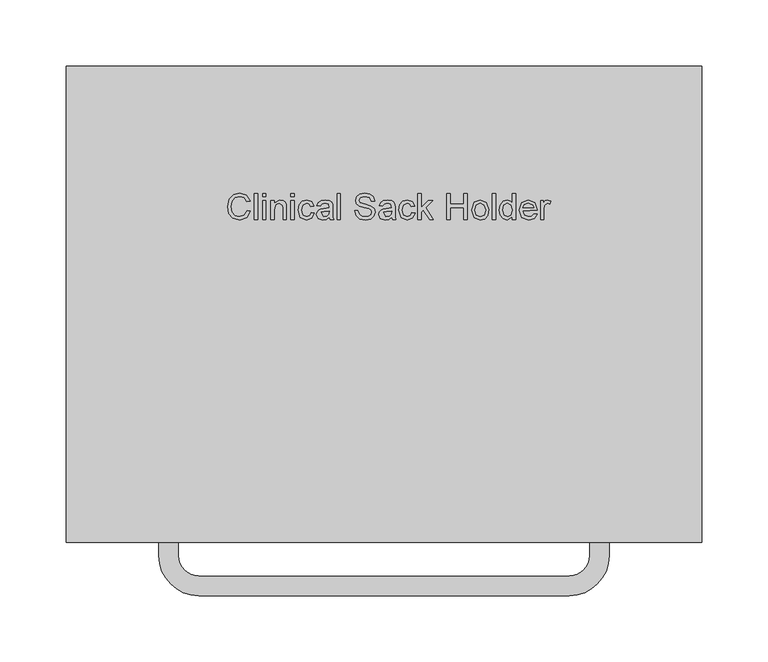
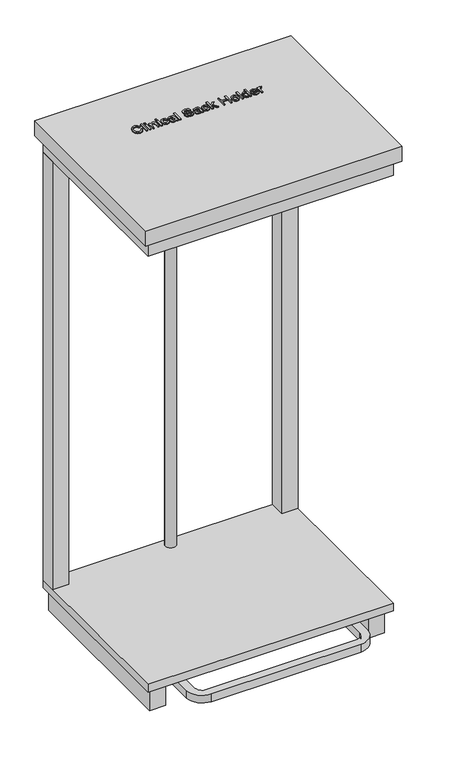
"""IFC4 building model written with IfcOpenShell, lengths in millimetres: furniture geometry, BIMHealth-Sack_Holder_Clinical-LOD2A-v1 : BIMHealth-Sack_Holder_Clinical-LOD2A-v1."""

import ifcopenshell
import ifcopenshell.guid

model = None  # the IFC model being written
_history = None  # IfcOwnerHistory: only IFC2X3 demands one
_inside = {}  # id of a spatial element -> (the spatial element, [elements in it])
_under = {}  # id of a project, library or spatial element -> (it, [spatial elements below it])
_declared = {}  # id of a project -> (the project, [libraries it declares])
_typed = {}  # id of a type object -> (the type object, [elements of that type])
_made_of = {}  # id of a material, layer set ... -> (it, [elements and type objects made of it])


def new_model(schema):
    """Start an empty IFC model of exactly this schema.

    Asked for "IFC4X3", IfcOpenShell would pick the latest addendum, in which some entities
    have other attributes; the version numbers below select the first issue.
    IFC2X3 requires an IfcOwnerHistory on every rooted entity: one is made here for all.
    """
    global model, _history
    if schema == "IFC4X3":
        model = ifcopenshell.file(schema_version=(4, 3, 0, 0))
    else:
        model = ifcopenshell.file(schema=schema)
    _inside.clear()
    _under.clear()
    _declared.clear()
    _typed.clear()
    _made_of.clear()
    _history = None
    if model.schema == "IFC2X3":
        org = make("IfcOrganization", Name="unknown")
        user = make(
            "IfcPersonAndOrganization",
            ThePerson=make("IfcPerson", FamilyName="unknown"),
            TheOrganization=org,
        )
        app = make(
            "IfcApplication",
            ApplicationDeveloper=org,
            Version="unknown",
            ApplicationFullName="unknown",
            ApplicationIdentifier="unknown",
        )
        _history = make(
            "IfcOwnerHistory",
            OwningUser=user,
            OwningApplication=app,
            ChangeAction="ADDED",
            CreationDate=0,
        )
    return model


def make(cls, **values):
    """One entity of the class cls with the attributes given. An attribute that is None is left unset."""
    return model.create_entity(
        cls, **{name: value for name, value in values.items() if value is not None}
    )


def rooted(cls, **values):
    """An entity with a GlobalId (a new one), such as an element, a storey or a relation."""
    return make(cls, GlobalId=ifcopenshell.guid.new(), OwnerHistory=_history, **values)


def si_unit(unit_type, name, prefix=None):
    """IfcSIUnit, for example si_unit("LENGTHUNIT", "METRE", prefix="MILLI")."""
    return make("IfcSIUnit", UnitType=unit_type, Prefix=prefix, Name=name)


def assignment(units):
    """IfcUnitAssignment: the units of a project."""
    return None if units is None else make("IfcUnitAssignment", Units=units)


def point(xyz):
    """IfcCartesianPoint."""
    return None if xyz is None else make("IfcCartesianPoint", Coordinates=xyz)


def direction(xyz):
    """IfcDirection."""
    return None if xyz is None else make("IfcDirection", DirectionRatios=xyz)


def frame(location, z_axis=None, x_axis=None):
    """IfcAxis2Placement3D, a coordinate frame: its origin and axes. An axis left out is left unset."""
    return make(
        "IfcAxis2Placement3D",
        Location=point(location),
        Axis=direction(z_axis),
        RefDirection=direction(x_axis),
    )


def frame_2d(location, x_axis=None):
    """IfcAxis2Placement2D, a coordinate frame in the plane: its origin and x axis."""
    return make(
        "IfcAxis2Placement2D", Location=point(location), RefDirection=direction(x_axis)
    )


def origin():
    """The frame at (0, 0, 0) with its axes left unset."""
    return frame((0.0, 0.0, 0.0))


def origin_with_axes():
    """The frame at (0, 0, 0) with the z axis (0, 0, 1) and the x axis (1, 0, 0) written out."""
    return frame((0.0, 0.0, 0.0), z_axis=(0.0, 0.0, 1.0), x_axis=(1.0, 0.0, 0.0))


def place(relative_to, where):
    """IfcLocalPlacement: puts the frame where relative to a parent placement (None: the world)."""
    return make(
        "IfcLocalPlacement", PlacementRelTo=relative_to, RelativePlacement=where
    )


def context(
    kind, dimensions, precision=None, world=None, true_north=None, identifier=None
):
    """IfcGeometricRepresentationContext, for example the 3D "Model" context."""
    return make(
        "IfcGeometricRepresentationContext",
        ContextIdentifier=identifier,
        ContextType=kind,
        CoordinateSpaceDimension=dimensions,
        Precision=precision,
        WorldCoordinateSystem=world,
        TrueNorth=true_north,
    )


def project(units=None, contexts=None):
    """IfcProject with its units and contexts."""
    return rooted(
        "IfcProject",
        Name="project",
        RepresentationContexts=contexts,
        UnitsInContext=assignment(units),
    )


def spatial(cls, under=None, at=None, **own):
    """A site, building, storey or space (cls), placed at a placement, below another one or the project."""
    s = rooted(cls, ObjectPlacement=at, **own)
    if under is not None:
        _under.setdefault(under.id(), (under, []))[1].append(s)
    return s


def polyline(points):
    """IfcPolyline through the points."""
    return make("IfcPolyline", Points=[point(p) for p in points])


def circle_curve(where, radius):
    """IfcCircle in the frame where."""
    return make("IfcCircle", Position=where, Radius=radius)


def trimmed(basis, trim1, trim2, sense, master):
    """IfcTrimmedCurve: the piece of a basis curve between two trims."""
    return make(
        "IfcTrimmedCurve",
        BasisCurve=basis,
        Trim1=trim1,
        Trim2=trim2,
        SenseAgreement=sense,
        MasterRepresentation=master,
    )


def segment(curve, same_sense, transition):
    """IfcCompositeCurveSegment."""
    return make(
        "IfcCompositeCurveSegment",
        Transition=transition,
        SameSense=same_sense,
        ParentCurve=curve,
    )


def composite_curve(segments, self_intersect=None):
    """IfcCompositeCurve: segments joined end to end."""
    return make("IfcCompositeCurve", Segments=segments, SelfIntersect=self_intersect)


def outline(outer, holes=None, kind="AREA"):
    """IfcArbitraryClosedProfileDef: a profile drawn as a closed curve; with holes, ...WithVoids."""
    if holes is None:
        return make("IfcArbitraryClosedProfileDef", ProfileType=kind, OuterCurve=outer)
    return make(
        "IfcArbitraryProfileDefWithVoids",
        ProfileType=kind,
        OuterCurve=outer,
        InnerCurves=holes,
    )


def extrude(swept, where, along, depth):
    """IfcExtrudedAreaSolid: the profile swept, set in the frame where, extruded along a direction by depth."""
    return make(
        "IfcExtrudedAreaSolid",
        SweptArea=swept,
        Position=where,
        ExtrudedDirection=direction(along),
        Depth=depth,
    )


def shape(context_of_items, identifier, shape_type, items):
    """IfcShapeRepresentation: the items that make up one representation, for example the "Body"."""
    return make(
        "IfcShapeRepresentation",
        ContextOfItems=context_of_items,
        RepresentationIdentifier=identifier,
        RepresentationType=shape_type,
        Items=items,
    )


def source(mapping_origin, context_of_items, identifier, shape_type, items):
    """IfcRepresentationMap: a shape defined once, which mapped items show again and again."""
    return make(
        "IfcRepresentationMap",
        MappingOrigin=mapping_origin,
        MappedRepresentation=shape(context_of_items, identifier, shape_type, items),
    )


def transform(
    local_origin,
    x_axis=None,
    y_axis=None,
    z_axis=None,
    scale=None,
    scale2=None,
    scale3=None,
    uniform=True,
):
    """IfcCartesianTransformationOperator3D, or its non-uniform kind. x_axis, y_axis, z_axis: its Axis1, 2, 3."""
    if uniform:
        return make(
            "IfcCartesianTransformationOperator3D",
            Axis1=direction(x_axis),
            Axis2=direction(y_axis),
            LocalOrigin=point(local_origin),
            Scale=scale,
            Axis3=direction(z_axis),
        )
    return make(
        "IfcCartesianTransformationOperator3DnonUniform",
        Axis1=direction(x_axis),
        Axis2=direction(y_axis),
        LocalOrigin=point(local_origin),
        Scale=scale,
        Axis3=direction(z_axis),
        Scale2=scale2,
        Scale3=scale3,
    )


def mapped(mapping_source, mapping_target):
    """IfcMappedItem: shows the shape of a source again, moved by a transform."""
    return make(
        "IfcMappedItem", MappingSource=mapping_source, MappingTarget=mapping_target
    )


def made_of(thing, what):
    """Note that an element or type object is made of a material, layer set ...; save() writes the relation."""
    if what is not None:
        _made_of.setdefault(what.id(), (what, []))[1].append(thing)
    return thing


def element(
    cls,
    number,
    at=None,
    inside=None,
    cuts=None,
    type_object=None,
    material=None,
    context=None,
    identifier="Body",
    shape_type=None,
    held_by="IfcProductDefinitionShape",
    body=None,
    shapes=None,
    **own,
):
    """One element of the class cls, such as IfcWall. Its Tag is "e" and its number.

    at: its placement. inside: the storey or other place that contains it. cuts: it is an
    opening in that element (IfcRelVoidsElement). A single representation is given by context,
    identifier, shape_type and body (its items); several are given by shapes. held_by: the class
    of the entity that holds the representations. save() writes the other relations.
    """
    e = rooted(cls, Tag="e%d" % number, ObjectPlacement=at, **own)
    if body is not None:
        shapes = [shape(context, identifier, shape_type, body)]
    if shapes is not None:
        e.Representation = make(held_by, Representations=shapes)
    if inside is not None:
        _inside.setdefault(inside.id(), (inside, []))[1].append(e)
    if cuts is not None:
        rooted(
            "IfcRelVoidsElement", RelatingBuildingElement=cuts, RelatedOpeningElement=e
        )
    if type_object is not None:
        _typed.setdefault(type_object.id(), (type_object, []))[1].append(e)
    return made_of(e, material)


def aggregate(whole, parts):
    """IfcRelAggregates: a whole, such as a stair, and the parts it consists of."""
    return rooted("IfcRelAggregates", RelatingObject=whole, RelatedObjects=parts)


def save(model, path):
    """Write the relations noted so far, then the file.

    IfcRelAggregates (storeys below a building ...), IfcRelContainedInSpatialStructure (elements
    in a storey), IfcRelDefinesByType, IfcRelAssociatesMaterial and IfcRelDeclares: one each for
    every whole, place, type object, material and project.
    """
    for whole, parts in _under.values():
        aggregate(whole, parts)
    for where, things in _inside.values():
        rooted(
            "IfcRelContainedInSpatialStructure",
            RelatedElements=things,
            RelatingStructure=where,
        )
    for kind, things in _typed.values():
        rooted("IfcRelDefinesByType", RelatedObjects=things, RelatingType=kind)
    for what, things in _made_of.values():
        rooted("IfcRelAssociatesMaterial", RelatedObjects=things, RelatingMaterial=what)
    for by, libraries in _declared.values():
        rooted("IfcRelDeclares", RelatingContext=by, RelatedDefinitions=libraries)
    model.write(path)


def furniture_610823a6(model_context):
    return source(origin(), model_context, "Body", "SweptSolid", [
        extrude(outline(polyline([(116.6607141, -88.9720816), (119.1222526, -89.606697), (116.2039833, -94.5706393), (111.0501372, -96.279774), (105.927541, -94.9865047), (102.9227333, -91.2413124), (101.8914833, -85.9768893), (103.0573487, -80.6259278), (106.3722526, -77.1571778), (111.1030218, -75.9720816), (116.0333103, -77.5057355), (118.8145603, -81.8230432), (116.3530218, -82.4095816), (114.333791, -79.3831393), (111.006868, -78.4336201), (107.1559064, -79.4865047), (104.9804256, -82.3134278), (104.3530218, -85.9720816), (105.0958103, -90.2124663), (107.4083103, -92.9216009), (110.8049449, -93.8182355), (114.5717718, -92.5970816), (116.6607141, -88.9720816)])), frame((0.0, 0.0, 970.0), z_axis=(0.0, 0.0, 1.0), x_axis=(1.0, 0.0, 0.0)), (0.0, 0.0, 1.0), 2.0),
        extrude(outline(polyline([(122.1991756, -95.9720816), (122.1991756, -76.279774), (124.6607141, -76.279774), (124.6607141, -95.9720816), (122.1991756, -95.9720816)])), frame((0.0, 0.0, 970.0), z_axis=(0.0, 0.0, 1.0), x_axis=(1.0, 0.0, 0.0)), (0.0, 0.0, 1.0), 2.0),
        extrude(outline(polyline([(128.3530218, -78.7413124), (128.3530218, -76.279774), (130.8145603, -76.279774), (130.8145603, -78.7413124), (128.3530218, -78.7413124)])), frame((0.0, 0.0, 970.0), z_axis=(0.0, 0.0, 1.0), x_axis=(1.0, 0.0, 0.0)), (0.0, 0.0, 1.0), 2.0),
        extrude(outline(polyline([(128.3530218, -95.9720816), (128.3530218, -81.5105432), (130.8145603, -81.5105432), (130.8145603, -95.9720816), (128.3530218, -95.9720816)])), frame((0.0, 0.0, 970.0), z_axis=(0.0, 0.0, 1.0), x_axis=(1.0, 0.0, 0.0)), (0.0, 0.0, 1.0), 2.0),
        extrude(outline(polyline([(134.506868, -95.9720816), (134.506868, -81.5105432), (136.9684064, -81.5105432), (136.9684064, -83.529774), (141.4203295, -81.2028509), (143.7448487, -81.6716009), (145.3313872, -82.9023701), (146.069368, -84.7124663), (146.1991756, -87.092274), (146.1991756, -95.9720816), (143.7376372, -95.9720816), (143.7376372, -87.4240047), (143.4539833, -85.2461201), (140.7616756, -83.6643893), (138.0910026, -84.6307355), (136.9684064, -88.2990047), (136.9684064, -95.9720816), (134.506868, -95.9720816)])), frame((0.0, 0.0, 970.0), z_axis=(0.0, 0.0, 1.0), x_axis=(1.0, 0.0, 0.0)), (0.0, 0.0, 1.0), 2.0),
        extrude(outline(polyline([(149.583791, -78.7413124), (149.583791, -76.279774), (152.0453295, -76.279774), (152.0453295, -78.7413124), (149.583791, -78.7413124)])), frame((0.0, 0.0, 970.0), z_axis=(0.0, 0.0, 1.0), x_axis=(1.0, 0.0, 0.0)), (0.0, 0.0, 1.0), 2.0),
        extrude(outline(polyline([(149.583791, -95.9720816), (149.583791, -81.5105432), (152.0453295, -81.5105432), (152.0453295, -95.9720816), (149.583791, -95.9720816)])), frame((0.0, 0.0, 970.0), z_axis=(0.0, 0.0, 1.0), x_axis=(1.0, 0.0, 0.0)), (0.0, 0.0, 1.0), 2.0),
        extrude(outline(polyline([(164.9684064, -90.7413124), (167.4299449, -91.0490047), (165.4539833, -94.8927547), (161.5501372, -96.279774), (156.8842718, -94.3446778), (155.1222526, -88.794197), (155.8746564, -84.7052547), (158.1679256, -82.0778509), (161.5164833, -81.2028509), (165.2592718, -82.404774), (167.1222526, -85.8182355), (164.6607141, -86.1259278), (163.5188872, -84.2821778), (161.5357141, -83.6643893), (158.6823487, -84.8807355), (157.583791, -88.7268893), (158.6583103, -92.6091009), (161.4684064, -93.8182355), (163.788118, -93.0634278), (164.9684064, -90.7413124)])), frame((0.0, 0.0, 970.0), z_axis=(0.0, 0.0, 1.0), x_axis=(1.0, 0.0, 0.0)), (0.0, 0.0, 1.0), 2.0),
        extrude(outline(polyline([(178.8145603, -94.1259278), (176.427541, -95.794197), (173.7905218, -96.279774), (170.2160026, -95.1115047), (168.9684064, -92.1259278), (169.4395603, -90.1788124), (170.677541, -88.7653509), (172.4010987, -87.9576586), (174.5309064, -87.5874663), (178.8001372, -86.7413124), (178.1366756, -84.3759278), (175.4155218, -83.6643893), (172.9251372, -84.137947), (171.7376372, -85.8182355), (169.2760987, -85.5105432), (170.3410026, -83.106697), (172.4852333, -81.6980432), (175.7328295, -81.2028509), (178.7160026, -81.6403509), (180.4010987, -82.7389086), (181.1559064, -84.4095816), (181.2760987, -86.5634278), (181.2760987, -89.6259278), (181.4010987, -93.9023701), (181.8914833, -95.9720816), (179.4299449, -95.9720816), (178.8145603, -94.1259278)]), holes=[polyline([(178.8073487, -89.5514086), (174.8434064, -89.9576586), (172.725618, -90.356697), (174.3145603, -93.8182355), (176.8049449, -93.2292932), (178.4107141, -91.8038124), (178.8073487, -89.5514086)])]), frame((0.0, 0.0, 970.0), z_axis=(0.0, 0.0, 1.0), x_axis=(1.0, 0.0, 0.0)), (0.0, 0.0, 1.0), 2.0),
        extrude(outline(polyline([(184.6607141, -95.9720816), (184.6607141, -76.279774), (187.1222526, -76.279774), (187.1222526, -95.9720816), (184.6607141, -95.9720816)])), frame((0.0, 0.0, 970.0), z_axis=(0.0, 0.0, 1.0), x_axis=(1.0, 0.0, 0.0)), (0.0, 0.0, 1.0), 2.0),
        extrude(outline(polyline([(197.8914833, -89.2028509), (200.3530218, -89.2028509), (201.146291, -91.6667932), (203.083791, -93.2244855), (206.0357141, -93.8182355), (208.6078295, -93.3687163), (210.2688872, -92.1331393), (210.8145603, -90.481697), (210.4059064, -88.9456393), (208.7328295, -87.8278509), (205.1486949, -86.887947), (201.2905218, -85.6740047), (199.1967718, -83.842274), (198.506868, -81.3951586), (199.3602333, -78.6091009), (201.8530218, -76.6427547), (205.5020603, -75.9720816), (209.396291, -76.6740047), (211.9924449, -78.7365047), (212.9684064, -81.8182355), (210.506868, -81.8182355), (209.1126372, -79.2893893), (205.5982141, -78.4336201), (202.0741756, -79.279774), (200.9684064, -81.3230432), (201.7520603, -83.029774), (205.771291, -84.404774), (210.1270603, -85.6403509), (212.5092718, -87.6355432), (213.2760987, -90.419197), (212.3938872, -93.3639086), (209.8554256, -95.512947), (206.131868, -96.279774), (201.7352333, -95.4528509), (198.9539833, -92.9624663), (197.8914833, -89.2028509)])), frame((0.0, 0.0, 970.0), z_axis=(0.0, 0.0, 1.0), x_axis=(1.0, 0.0, 0.0)), (0.0, 0.0, 1.0), 2.0),
        extrude(outline(polyline([(225.8914833, -94.1259278), (223.5044641, -95.794197), (220.8674449, -96.279774), (217.2929256, -95.1115047), (216.0453295, -92.1259278), (216.5164833, -90.1788124), (217.7544641, -88.7653509), (219.4780218, -87.9576586), (221.6078295, -87.5874663), (225.8770603, -86.7413124), (225.2135987, -84.3759278), (222.4924449, -83.6643893), (220.0020603, -84.137947), (218.8145603, -85.8182355), (216.3530218, -85.5105432), (217.4179256, -83.106697), (219.5621564, -81.6980432), (222.8097526, -81.2028509), (225.7929256, -81.6403509), (227.4780218, -82.7389086), (228.2328295, -84.4095816), (228.3530218, -86.5634278), (228.3530218, -89.6259278), (228.4780218, -93.9023701), (228.9684064, -95.9720816), (226.506868, -95.9720816), (225.8914833, -94.1259278)]), holes=[polyline([(225.8842718, -89.5514086), (221.9203295, -89.9576586), (219.802541, -90.356697), (221.3914833, -93.8182355), (223.881868, -93.2292932), (225.4876372, -91.8038124), (225.8842718, -89.5514086)])]), frame((0.0, 0.0, 970.0), z_axis=(0.0, 0.0, 1.0), x_axis=(1.0, 0.0, 0.0)), (0.0, 0.0, 1.0), 2.0),
        extrude(outline(polyline([(240.9684064, -90.7413124), (243.4299449, -91.0490047), (241.4539833, -94.8927547), (237.5501372, -96.279774), (232.8842718, -94.3446778), (231.1222526, -88.794197), (231.8746564, -84.7052547), (234.1679256, -82.0778509), (237.5164833, -81.2028509), (241.2592718, -82.404774), (243.1222526, -85.8182355), (240.6607141, -86.1259278), (239.5188872, -84.2821778), (237.5357141, -83.6643893), (234.6823487, -84.8807355), (233.583791, -88.7268893), (234.6583103, -92.6091009), (237.4684064, -93.8182355), (239.788118, -93.0634278), (240.9684064, -90.7413124)])), frame((0.0, 0.0, 970.0), z_axis=(0.0, 0.0, 1.0), x_axis=(1.0, 0.0, 0.0)), (0.0, 0.0, 1.0), 2.0),
        extrude(outline(polyline([(245.583791, -95.9720816), (245.583791, -76.279774), (248.0453295, -76.279774), (248.0453295, -86.8615047), (253.5645603, -81.5105432), (256.9684064, -81.5105432), (251.3770603, -86.9288124), (257.2760987, -95.9720816), (254.4010987, -95.9720816), (249.6126372, -88.6403509), (248.0453295, -90.1643893), (248.0453295, -95.9720816), (245.583791, -95.9720816)])), frame((0.0, 0.0, 970.0), z_axis=(0.0, 0.0, 1.0), x_axis=(1.0, 0.0, 0.0)), (0.0, 0.0, 1.0), 2.0),
        extrude(outline(polyline([(267.4299449, -95.9720816), (267.4299449, -76.279774), (269.8914833, -76.279774), (269.8914833, -84.279774), (280.3530218, -84.279774), (280.3530218, -76.279774), (282.8145603, -76.279774), (282.8145603, -95.9720816), (280.3530218, -95.9720816), (280.3530218, -86.7413124), (269.8914833, -86.7413124), (269.8914833, -95.9720816), (267.4299449, -95.9720816)])), frame((0.0, 0.0, 970.0), z_axis=(0.0, 0.0, 1.0), x_axis=(1.0, 0.0, 0.0)), (0.0, 0.0, 1.0), 2.0),
        extrude(outline(polyline([(286.1991756, -88.7413124), (288.3289833, -82.8038124), (292.6655218, -81.2028509), (297.3169641, -83.1523701), (299.1222526, -88.5393893), (298.3241756, -92.919197), (295.9996564, -95.3975624), (292.6655218, -96.279774), (287.9852333, -94.3374663), (286.1991756, -88.7413124)]), holes=[polyline([(288.6607141, -88.7365047), (289.8001372, -92.5514086), (292.6655218, -93.8182355), (295.521291, -92.544197), (296.6607141, -88.6595816), (295.5140795, -84.9312163), (292.6655218, -83.6643893), (289.8001372, -84.9264086), (288.6607141, -88.7365047)])]), frame((0.0, 0.0, 970.0), z_axis=(0.0, 0.0, 1.0), x_axis=(1.0, 0.0, 0.0)), (0.0, 0.0, 1.0), 2.0),
        extrude(outline(polyline([(301.8914833, -95.9720816), (301.8914833, -76.279774), (304.3530218, -76.279774), (304.3530218, -95.9720816), (301.8914833, -95.9720816)])), frame((0.0, 0.0, 970.0), z_axis=(0.0, 0.0, 1.0), x_axis=(1.0, 0.0, 0.0)), (0.0, 0.0, 1.0), 2.0),
        extrude(outline(polyline([(316.9684064, -95.9720816), (316.9684064, -93.6499663), (313.0885987, -96.279774), (310.0405218, -95.3278509), (307.8866756, -92.6716009), (307.1222526, -88.7557355), (307.8265795, -84.8374663), (309.9371564, -82.1403509), (313.0789833, -81.2028509), (315.3482141, -81.873524), (316.9684064, -83.6163124), (316.9684064, -76.279774), (319.4299449, -76.279774), (319.4299449, -95.9720816), (316.9684064, -95.9720816)]), holes=[polyline([(309.583791, -88.7461201), (310.694368, -92.5562163), (313.3145603, -93.8182355), (315.9035026, -92.6139086), (316.9684064, -88.9336201), (315.8842718, -84.9384278), (313.2135987, -83.6643893), (310.6222526, -84.887947), (309.583791, -88.7461201)])]), frame((0.0, 0.0, 970.0), z_axis=(0.0, 0.0, 1.0), x_axis=(1.0, 0.0, 0.0)), (0.0, 0.0, 1.0), 2.0),
        extrude(outline(polyline([(333.2472526, -91.6643893), (335.6607141, -91.9720816), (333.4035026, -95.1499663), (329.1991756, -96.279774), (324.0885987, -94.3302547), (322.1991756, -88.8615047), (324.1078295, -83.2124663), (329.0597526, -81.2028509), (333.8698487, -83.2076586), (335.7376372, -88.8470816), (324.6607141, -89.5105432), (326.0765795, -92.7076586), (329.2472526, -93.8182355), (331.6607141, -93.3038124), (333.2472526, -91.6643893)]), holes=[polyline([(324.6607141, -87.0490047), (333.2760987, -87.0490047), (332.2905218, -84.8182355), (329.0501372, -83.6643893), (326.0188872, -84.5850624), (324.6607141, -87.0490047)])]), frame((0.0, 0.0, 970.0), z_axis=(0.0, 0.0, 1.0), x_axis=(1.0, 0.0, 0.0)), (0.0, 0.0, 1.0), 2.0),
        extrude(outline(polyline([(338.1991756, -95.9720816), (338.1991756, -81.5105432), (340.3530218, -81.5105432), (340.3530218, -83.6499663), (341.881868, -81.6788124), (343.4203295, -81.2028509), (345.8914833, -81.9624663), (345.069368, -84.169197), (343.3385987, -83.6643893), (341.0597526, -85.4961201), (340.6607141, -88.3711201), (340.6607141, -95.9720816), (338.1991756, -95.9720816)])), frame((0.0, 0.0, 970.0), z_axis=(0.0, 0.0, 1.0), x_axis=(1.0, 0.0, 0.0)), (0.0, 0.0, 1.0), 2.0),
        extrude(outline(polyline([(-20.0, -340.0), (-20.0, 20.0), (460.0, 20.0), (460.0, -340.0), (-20.0, -340.0)])), frame((0.0, 0.0, 940.0), z_axis=(0.0, 0.0, 1.0), x_axis=(1.0, 0.0, 0.0)), (0.0, 0.0, 1.0), 30.0),
        extrude(outline(composite_curve([segment(trimmed(circle_curve(frame_2d((220.0, -5.0)), 10.0), [point((210.0, -5.0))], [point((230.0, -5.0))], False, "CARTESIAN"), True, "CONTINUOUS"), segment(trimmed(circle_curve(frame_2d((220.0, -5.0)), 10.0), [point((230.0, -5.0))], [point((210.0, -5.0))], False, "CARTESIAN"), True, "CONTINUOUS")], self_intersect=False)), frame((0.0, 0.0, 62.5), z_axis=(0.0, 0.0, 1.0), x_axis=(1.0, 0.0, 0.0)), (0.0, 0.0, 1.0), 847.5),
        extrude(outline(polyline([(420.0, 10.0), (450.0, 10.0), (450.0, -20.0), (420.0, -20.0), (420.0, 10.0)])), frame((0.0, 0.0, 62.5), z_axis=(0.0, 0.0, 1.0), x_axis=(1.0, 0.0, 0.0)), (0.0, 0.0, 1.0), 847.5),
        extrude(outline(polyline([(20.0, 10.0), (20.0, -20.0), (-10.0, -20.0), (-10.0, 10.0), (20.0, 10.0)])), frame((0.0, 0.0, 62.5), z_axis=(0.0, 0.0, 1.0), x_axis=(1.0, 0.0, 0.0)), (0.0, 0.0, 1.0), 847.5),
        extrude(outline(polyline([(450.0, -330.0), (-10.0, -330.0), (-10.0, 10.0), (450.0, 10.0), (450.0, -330.0)])), frame((0.0, 0.0, 47.5), z_axis=(0.0, 0.0, 1.0), x_axis=(1.0, 0.0, 0.0)), (0.0, 0.0, 1.0), 15.0),
        extrude(outline(polyline([(450.0, -330.0), (-10.0, -330.0), (-10.0, 10.0), (450.0, 10.0), (450.0, -330.0)])), frame((0.0, 0.0, 910.0), z_axis=(0.0, 0.0, 1.0), x_axis=(1.0, 0.0, 0.0)), (0.0, 0.0, 1.0), 30.0),
        extrude(outline(polyline([(410.0, -20.0), (30.0, -20.0), (30.0, -317.779018), (0.0, -317.779018), (0.0, 10.0), (440.0, 10.0), (440.0, -317.779018), (410.0, -317.779018), (410.0, -20.0)])), origin_with_axes(), (0.0, 0.0, 1.0), 47.5),
        extrude(outline(composite_curve([segment(polyline([(360.0, -380.0), (80.0, -380.0)]), True, "CONTINUOUS"), segment(trimmed(circle_curve(frame_2d((80.0, -350.0)), 30.0), [point((80.0, -380.0))], [point((50.0, -350.0))], False, "CARTESIAN"), True, "CONTINUOUS"), segment(polyline([(50.0, -350.0), (50.0, -132.779018), (390.0, -132.779018), (390.0, -350.0)]), True, "CONTINUOUS"), segment(trimmed(circle_curve(frame_2d((360.0, -350.0)), 30.0), [point((390.0, -350.0))], [point((360.0, -380.0))], False, "CARTESIAN"), True, "CONTINUOUS")], self_intersect=False), holes=[composite_curve([segment(trimmed(circle_curve(frame_2d((80.0, -350.0)), 15.0), [point((65.0, -350.0))], [point((80.0, -365.0))], True, "CARTESIAN"), True, "CONTINUOUS"), segment(polyline([(80.0, -365.0), (360.0, -365.0)]), True, "CONTINUOUS"), segment(trimmed(circle_curve(frame_2d((360.0, -350.0)), 15.0), [point((360.0, -365.0))], [point((375.0, -350.0))], True, "CARTESIAN"), True, "CONTINUOUS"), segment(polyline([(375.0, -350.0), (375.0, -147.779018), (65.0, -147.779018), (65.0, -350.0)]), True, "CONTINUOUS")], self_intersect=False)]), frame((0.0, 0.0, 27.5), z_axis=(0.0, 0.0, 1.0), x_axis=(1.0, 0.0, 0.0)), (0.0, 0.0, 1.0), 15.0),
    ])


if __name__ == "__main__":
    model = new_model("IFC4")
    model_context = context("Model", 3, world=origin())
    ifc_project = project(units=[si_unit("LENGTHUNIT", "METRE", prefix="MILLI")], contexts=[model_context])
    site = spatial("IfcSite", under=ifc_project)
    building = spatial("IfcBuilding", under=site)
    placement = place(None, origin())
    furniture_shape = furniture_610823a6(model_context)
    element("IfcFurniture", 1, ObjectType="BIMHealth-Sack_Holder_Clinical-LOD2A-v1 : BIMHealth-Sack_Holder_Clinical-LOD2A-v1", at=placement, inside=building, context=model_context, shape_type="MappedRepresentation", body=[
        mapped(furniture_shape, transform((0.0, 0.0, 0.0), x_axis=(1.0, 0.0, 0.0), y_axis=(0.0, 1.0, 0.0), z_axis=(0.0, 0.0, 1.0))),
    ])
    save(model, "model.ifc")
